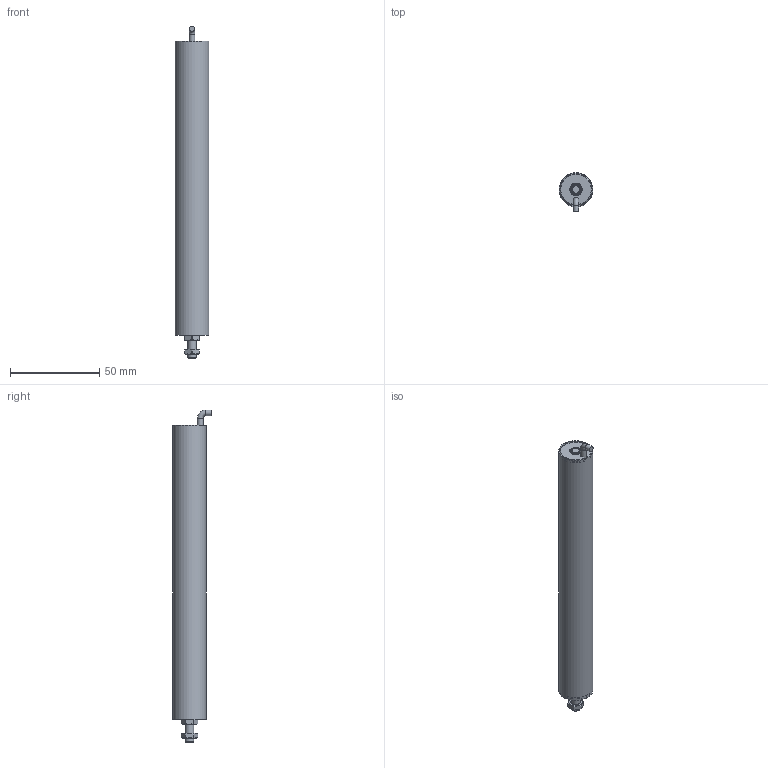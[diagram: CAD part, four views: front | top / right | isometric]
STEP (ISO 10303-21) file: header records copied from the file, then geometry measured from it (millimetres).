
FILE_DESCRIPTION(/* description */ ('ILPS-19Z-XXX-A-00-ZZ shrinkwrapped'),/* implementation_level */ '2;1');
FILE_NAME(/* name */ 'ILPS-19Z-150-A-00-ZZ shrinkwrapped.stp',/* time_stamp */ '2026-08-13T16:09:19-04:00',/* author */ ('Cameron'),/* organization */ ('hgsi'),/* preprocessor_version */ 'ST-DEVELOPER v20.1',/* originating_system */ 'Autodesk Inventor 2027',/* authorisation */ '');
FILE_SCHEMA (('AUTOMOTIVE_DESIGN { 1 0 10303 214 3 1 1 }'));
Length unit declared in the file: inch
Products named in the file (4): ILPS-19Z-150-A-00-ZZ shrinkwrapped; ILPS-19Z-150-A-00-ZZ-A shrinkwrapped body; ILPS-19Z-150 Rod; 8200-0360
Assembly tree (4 placements, depth 2):
  ILPS-19Z-150-A-00-ZZ shrinkwrapped
    ILPS-19Z-150-A-00-ZZ-A shrinkwrapped body
    ILPS-19Z-150 Rod
    8200-0360  x2
Bounding box: 19.05 x 21.89 x 186.5 mm (x, y, z)
Volume: 9380.7 mm3; surface area: 35620.7 mm2
Topology: 6 solids, 6 shells, 95 faces, 226 edges, 149 vertices
Faces by surface type: cylinder 41, plane 33, cone 16, bspline 4, torus 1
Full cylindrical faces by diameter (mm): 3.175 x2, 3.961 x2, 4.75 x1, 4.775 x1, 5 x4, 5.08 x1, 5.944 x2, 5.994 x1, 7.061 x1, 7.137 x2, 18.364 x1, 18.415 x1, 19.05 x1
Entity records: 2811 total; most frequent: CARTESIAN_POINT 1138, DIRECTION 304, ORIENTED_EDGE 302, EDGE_CURVE 151, AXIS2_PLACEMENT_3D 127, VERTEX_POINT 99, EDGE_LOOP 82, FACE_OUTER_BOUND 68
